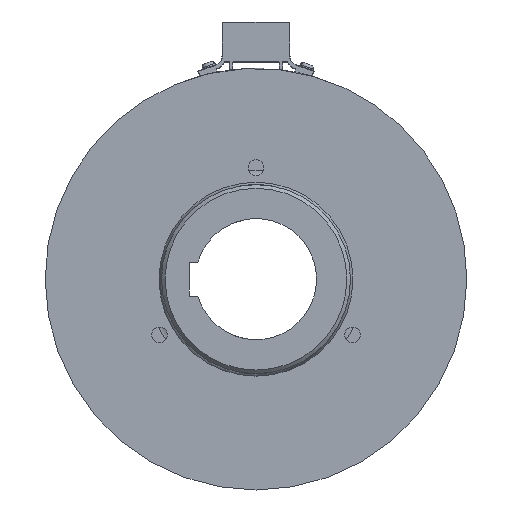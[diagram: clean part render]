
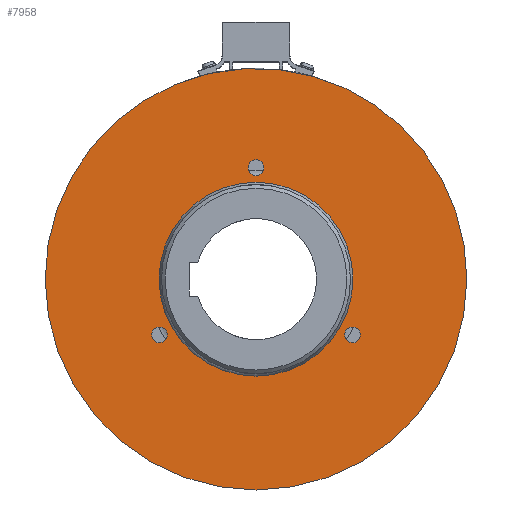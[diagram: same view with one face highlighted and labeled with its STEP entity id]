
A CAD part, left-side view. The second image highlights one B-rep face of the part: STEP entity #7958.
In plain terms, the highlighted planar face has unit normal (-1, 0, 0).
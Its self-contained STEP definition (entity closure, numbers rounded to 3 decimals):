
#236=PLANE('',#9006);
#312=FACE_BOUND('',#1254,.T.);
#313=FACE_BOUND('',#1255,.T.);
#314=FACE_BOUND('',#1256,.T.);
#315=FACE_BOUND('',#1257,.T.);
#764=FACE_OUTER_BOUND('',#1253,.T.);
#1253=EDGE_LOOP('',(#6746,#6747,#6748));
#1254=EDGE_LOOP('',(#6749));
#1255=EDGE_LOOP('',(#6750));
#1256=EDGE_LOOP('',(#6751));
#1257=EDGE_LOOP('',(#6752,#6753));
#1307=CIRCLE('',#8018,87.);
#1308=CIRCLE('',#8019,87.);
#1611=CIRCLE('',#8566,87.);
#1915=CIRCLE('',#9007,3.25);
#1916=CIRCLE('',#9008,3.25);
#1917=CIRCLE('',#9009,3.25);
#1918=CIRCLE('',#9010,40.);
#1919=CIRCLE('',#9011,40.);
#2793=VERTEX_POINT('',#11710);
#2798=VERTEX_POINT('',#11720);
#2799=VERTEX_POINT('',#11722);
#3479=VERTEX_POINT('',#14470);
#3480=VERTEX_POINT('',#14472);
#3481=VERTEX_POINT('',#14474);
#3482=VERTEX_POINT('',#14476);
#3483=VERTEX_POINT('',#14477);
#3553=EDGE_CURVE('',#2799,#2798,#1307,.T.);
#3554=EDGE_CURVE('',#2793,#2799,#1308,.T.);
#4188=EDGE_CURVE('',#2798,#2793,#1611,.T.);
#4607=EDGE_CURVE('',#3479,#3479,#1915,.T.);
#4608=EDGE_CURVE('',#3480,#3480,#1916,.T.);
#4609=EDGE_CURVE('',#3481,#3481,#1917,.T.);
#4610=EDGE_CURVE('',#3482,#3483,#1918,.T.);
#4611=EDGE_CURVE('',#3483,#3482,#1919,.T.);
#6746=ORIENTED_EDGE('',*,*,#3553,.T.);
#6747=ORIENTED_EDGE('',*,*,#4188,.T.);
#6748=ORIENTED_EDGE('',*,*,#3554,.T.);
#6749=ORIENTED_EDGE('',*,*,#4607,.T.);
#6750=ORIENTED_EDGE('',*,*,#4608,.T.);
#6751=ORIENTED_EDGE('',*,*,#4609,.T.);
#6752=ORIENTED_EDGE('',*,*,#4610,.F.);
#6753=ORIENTED_EDGE('',*,*,#4611,.F.);
#7958=ADVANCED_FACE('',(#764,#312,#313,#314,#315),#236,.T.);
#8018=AXIS2_PLACEMENT_3D('',#11723,#9122,#9123);
#8019=AXIS2_PLACEMENT_3D('',#11724,#9124,#9125);
#8566=AXIS2_PLACEMENT_3D('',#13534,#10485,#10486);
#9006=AXIS2_PLACEMENT_3D('',#14469,#11471,#11472);
#9007=AXIS2_PLACEMENT_3D('',#14471,#11473,#11474);
#9008=AXIS2_PLACEMENT_3D('',#14473,#11475,#11476);
#9009=AXIS2_PLACEMENT_3D('',#14475,#11477,#11478);
#9010=AXIS2_PLACEMENT_3D('',#14478,#11479,#11480);
#9011=AXIS2_PLACEMENT_3D('',#14479,#11481,#11482);
#9122=DIRECTION('center_axis',(-1.,0.,0.));
#9123=DIRECTION('ref_axis',(0.,1.,0.));
#9124=DIRECTION('center_axis',(-1.,0.,0.));
#9125=DIRECTION('ref_axis',(0.,1.,0.));
#10485=DIRECTION('center_axis',(-1.,0.,0.));
#10486=DIRECTION('ref_axis',(0.,1.,0.));
#11471=DIRECTION('center_axis',(-1.,0.,0.));
#11472=DIRECTION('ref_axis',(0.,0.,
1.));
#11473=DIRECTION('center_axis',(1.,0.,0.));
#11474=DIRECTION('ref_axis',(0.,0.,
-1.));
#11475=DIRECTION('center_axis',(1.,0.,0.));
#11476=DIRECTION('ref_axis',(0.,0.,
-1.));
#11477=DIRECTION('center_axis',(1.,0.,0.));
#11478=DIRECTION('ref_axis',(0.,0.,
-1.));
#11479=DIRECTION('center_axis',(-1.,0.,0.));
#11480=DIRECTION('ref_axis',(0.,1.,0.));
#11481=DIRECTION('center_axis',(-1.,0.,0.));
#11482=DIRECTION('ref_axis',(0.,1.,0.));
#11710=CARTESIAN_POINT('',(-25.05,-9.696,86.46));
#11720=CARTESIAN_POINT('',(-25.05,-87.018,0.));
#11722=CARTESIAN_POINT('',(-25.05,86.982,0.));
#11723=CARTESIAN_POINT('Origin',(-25.05,-0.018,0.));
#11724=CARTESIAN_POINT('Origin',(-25.05,-0.018,0.));
#13534=CARTESIAN_POINT('Origin',(-25.05,-0.018,0.));
#14469=CARTESIAN_POINT('Origin',(-25.05,63.482,0.));
#14470=CARTESIAN_POINT('',(-25.05,-39.855,-19.75));
#14471=CARTESIAN_POINT('Origin',(-25.05,-39.855,-23.));
#14472=CARTESIAN_POINT('',(-25.05,-0.018,49.25));
#14473=CARTESIAN_POINT('Origin',(-25.05,-0.018,46.));
#14474=CARTESIAN_POINT('',(-25.05,39.819,-19.75));
#14475=CARTESIAN_POINT('Origin',(-25.05,39.819,-23.));
#14476=CARTESIAN_POINT('',(-25.05,39.982,0.));
#14477=CARTESIAN_POINT('',(-25.05,-40.018,0.));
#14478=CARTESIAN_POINT('Origin',(-25.05,-0.018,0.));
#14479=CARTESIAN_POINT('Origin',(-25.05,-0.018,0.));
